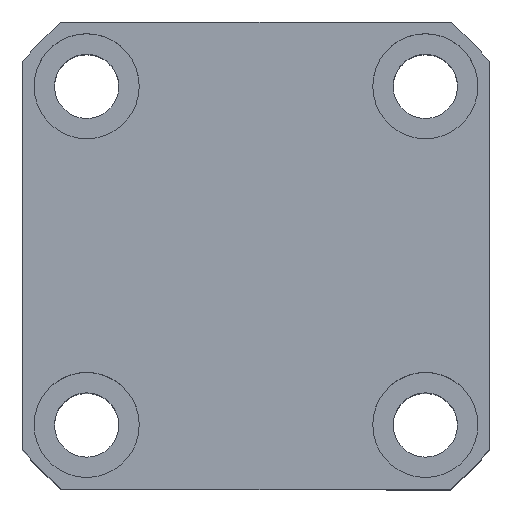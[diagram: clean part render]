
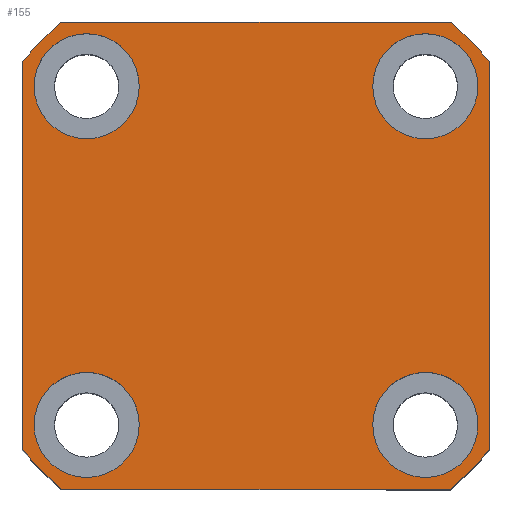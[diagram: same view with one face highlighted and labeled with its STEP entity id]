
A CAD part, top view. The second image highlights one B-rep face of the part: STEP entity #155.
In plain terms, the highlighted planar face has unit normal (0, 0, 1).
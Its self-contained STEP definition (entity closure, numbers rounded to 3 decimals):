
#124 = ORIENTED_EDGE ( 'NONE', *, *, #15685, .T. ) ;
#140 = EDGE_CURVE ( 'NONE', #9310, #4087, #6025, .T. ) ;
#155 = ADVANCED_FACE ( 'NONE', ( #2094, #168, #10389, #6459, #4936 ), #10174, .T. ) ;
#168 = FACE_BOUND ( 'NONE', #5834, .T. ) ;
#256 = VERTEX_POINT ( 'NONE', #1509 ) ;
#349 = ORIENTED_EDGE ( 'NONE', *, *, #2076, .T. ) ;
#391 = ORIENTED_EDGE ( 'NONE', *, *, #3482, .F. ) ;
#503 = DIRECTION ( 'NONE',  ( 0., 0., 1. ) ) ;
#584 = CARTESIAN_POINT ( 'NONE',  ( 40., 33.226, 42.5 ) ) ;
#848 = CARTESIAN_POINT ( 'NONE',  ( 20., 29., 42.5 ) ) ;
#892 = ORIENTED_EDGE ( 'NONE', *, *, #12629, .F. ) ;
#931 = VERTEX_POINT ( 'NONE', #10546 ) ;
#1097 = DIRECTION ( 'NONE',  ( 0., 0., 1. ) ) ;
#1403 = ORIENTED_EDGE ( 'NONE', *, *, #11525, .T. ) ;
#1509 = CARTESIAN_POINT ( 'NONE',  ( 33.226, 40., 42.5 ) ) ;
#1625 = DIRECTION ( 'NONE',  ( 0., 0., 1. ) ) ;
#1714 = CIRCLE ( 'NONE', #4272, 9. ) ;
#1740 = CARTESIAN_POINT ( 'NONE',  ( 20., -29., 42.5 ) ) ;
#1777 = VERTEX_POINT ( 'NONE', #2681 ) ;
#1819 = DIRECTION ( 'NONE',  ( 1., 0., 0. ) ) ;
#2018 = AXIS2_PLACEMENT_3D ( 'NONE', #10610, #3672, #2309 ) ;
#2076 = EDGE_CURVE ( 'NONE', #15550, #15470, #13695, .T. ) ;
#2094 = FACE_BOUND ( 'NONE', #6607, .T. ) ;
#2194 = CIRCLE ( 'NONE', #8693, 9. ) ;
#2226 = AXIS2_PLACEMENT_3D ( 'NONE', #8415, #14003, #5634 ) ;
#2257 = EDGE_CURVE ( 'NONE', #6229, #18089, #14803, .T. ) ;
#2309 = DIRECTION ( 'NONE',  ( 1., 0., 0. ) ) ;
#2662 = DIRECTION ( 'NONE',  ( -1., 0., 0. ) ) ;
#2676 = VERTEX_POINT ( 'NONE', #4842 ) ;
#2681 = CARTESIAN_POINT ( 'NONE',  ( 38., -29., 42.5 ) ) ;
#2685 = VERTEX_POINT ( 'NONE', #5265 ) ;
#2725 = CARTESIAN_POINT ( 'NONE',  ( 33.226, -40., 42.5 ) ) ;
#2756 = CARTESIAN_POINT ( 'NONE',  ( 0., 0., 42.5 ) ) ;
#2757 = CARTESIAN_POINT ( 'NONE',  ( -40., 33.226, 42.5 ) ) ;
#2796 = ORIENTED_EDGE ( 'NONE', *, *, #3977, .F. ) ;
#3159 = CARTESIAN_POINT ( 'NONE',  ( 0., 0., 42.5 ) ) ;
#3431 = ORIENTED_EDGE ( 'NONE', *, *, #16962, .F. ) ;
#3482 = EDGE_CURVE ( 'NONE', #18089, #6229, #4694, .T. ) ;
#3489 = DIRECTION ( 'NONE',  ( 0., 1., 0. ) ) ;
#3672 = DIRECTION ( 'NONE',  ( 0., 0., 1. ) ) ;
#3762 = VERTEX_POINT ( 'NONE', #5884 ) ;
#3852 = ORIENTED_EDGE ( 'NONE', *, *, #12594, .F. ) ;
#3977 = EDGE_CURVE ( 'NONE', #7020, #1777, #14554, .T. ) ;
#3983 = DIRECTION ( 'NONE',  ( 0., 0., 1. ) ) ;
#4038 = ORIENTED_EDGE ( 'NONE', *, *, #12263, .T. ) ;
#4087 = VERTEX_POINT ( 'NONE', #2757 ) ;
#4272 = AXIS2_PLACEMENT_3D ( 'NONE', #10871, #3983, #16696 ) ;
#4694 = CIRCLE ( 'NONE', #6560, 9. ) ;
#4747 = DIRECTION ( 'NONE',  ( 0., 0., 1. ) ) ;
#4760 = VERTEX_POINT ( 'NONE', #848 ) ;
#4823 = ORIENTED_EDGE ( 'NONE', *, *, #140, .T. ) ;
#4842 = CARTESIAN_POINT ( 'NONE',  ( 40., 33.226, 42.5 ) ) ;
#4936 = FACE_OUTER_BOUND ( 'NONE', #8471, .T. ) ;
#4975 = DIRECTION ( 'NONE',  ( 0., 0., 1. ) ) ;
#4990 = LINE ( 'NONE', #584, #14640 ) ;
#5048 = DIRECTION ( 'NONE',  ( 0., 0., 1. ) ) ;
#5265 = CARTESIAN_POINT ( 'NONE',  ( 38., 29., 42.5 ) ) ;
#5508 = AXIS2_PLACEMENT_3D ( 'NONE', #5558, #16946, #11313 ) ;
#5558 = CARTESIAN_POINT ( 'NONE',  ( -29., -29., 42.5 ) ) ;
#5634 = DIRECTION ( 'NONE',  ( 1., 0., 0. ) ) ;
#5745 = DIRECTION ( 'NONE',  ( 0., 0., 1. ) ) ;
#5834 = EDGE_LOOP ( 'NONE', ( #11211, #3431 ) ) ;
#5881 = LINE ( 'NONE', #14797, #6097 ) ;
#5884 = CARTESIAN_POINT ( 'NONE',  ( -40., -33.226, 42.5 ) ) ;
#6025 = CIRCLE ( 'NONE', #11401, 52. ) ;
#6097 = VECTOR ( 'NONE', #16202, 1000. ) ;
#6229 = VERTEX_POINT ( 'NONE', #12473 ) ;
#6379 = DIRECTION ( 'NONE',  ( 1., 0., 0. ) ) ;
#6459 = FACE_BOUND ( 'NONE', #8430, .T. ) ;
#6560 = AXIS2_PLACEMENT_3D ( 'NONE', #15643, #15588, #11539 ) ;
#6607 = EDGE_LOOP ( 'NONE', ( #10227, #2796 ) ) ;
#6876 = CARTESIAN_POINT ( 'NONE',  ( -33.226, 40., 42.5 ) ) ;
#7020 = VERTEX_POINT ( 'NONE', #1740 ) ;
#7069 = CIRCLE ( 'NONE', #16186, 52. ) ;
#7218 = VERTEX_POINT ( 'NONE', #7400 ) ;
#7400 = CARTESIAN_POINT ( 'NONE',  ( -38., -29., 42.5 ) ) ;
#7441 = LINE ( 'NONE', #6876, #12283 ) ;
#7600 = CARTESIAN_POINT ( 'NONE',  ( 0., 0., 42.5 ) ) ;
#7659 = ORIENTED_EDGE ( 'NONE', *, *, #15472, .T. ) ;
#7663 = CIRCLE ( 'NONE', #14820, 52. ) ;
#8379 = EDGE_CURVE ( 'NONE', #4087, #3762, #13874, .T. ) ;
#8415 = CARTESIAN_POINT ( 'NONE',  ( 0., 0., 42.5 ) ) ;
#8430 = EDGE_LOOP ( 'NONE', ( #3852, #892 ) ) ;
#8471 = EDGE_LOOP ( 'NONE', ( #4823, #9360, #14816, #1403, #349, #4038, #124, #7659 ) ) ;
#8693 = AXIS2_PLACEMENT_3D ( 'NONE', #12192, #4975, #6379 ) ;
#8856 = CIRCLE ( 'NONE', #11547, 9. ) ;
#9310 = VERTEX_POINT ( 'NONE', #11517 ) ;
#9360 = ORIENTED_EDGE ( 'NONE', *, *, #8379, .T. ) ;
#9747 = DIRECTION ( 'NONE',  ( 0., 0., 1. ) ) ;
#9905 = CIRCLE ( 'NONE', #5508, 9. ) ;
#9920 = EDGE_CURVE ( 'NONE', #931, #7218, #9905, .T. ) ;
#9927 = EDGE_CURVE ( 'NONE', #3762, #14461, #7069, .T. ) ;
#9985 = CARTESIAN_POINT ( 'NONE',  ( 0., 0., 42.5 ) ) ;
#10174 = PLANE ( 'NONE',  #10326 ) ;
#10209 = AXIS2_PLACEMENT_3D ( 'NONE', #12229, #1097, #10919 ) ;
#10227 = ORIENTED_EDGE ( 'NONE', *, *, #15288, .F. ) ;
#10305 = DIRECTION ( 'NONE',  ( 0., -1., 0. ) ) ;
#10326 = AXIS2_PLACEMENT_3D ( 'NONE', #3159, #4747, #1819 ) ;
#10389 = FACE_BOUND ( 'NONE', #18090, .T. ) ;
#10546 = CARTESIAN_POINT ( 'NONE',  ( -20., -29., 42.5 ) ) ;
#10610 = CARTESIAN_POINT ( 'NONE',  ( 29., -29., 42.5 ) ) ;
#10871 = CARTESIAN_POINT ( 'NONE',  ( 29., 29., 42.5 ) ) ;
#10919 = DIRECTION ( 'NONE',  ( 1., 0., 0. ) ) ;
#11151 = CARTESIAN_POINT ( 'NONE',  ( 40., -33.226, 42.5 ) ) ;
#11161 = CARTESIAN_POINT ( 'NONE',  ( -29., 29., 42.5 ) ) ;
#11211 = ORIENTED_EDGE ( 'NONE', *, *, #9920, .F. ) ;
#11313 = DIRECTION ( 'NONE',  ( 1., 0., 0. ) ) ;
#11401 = AXIS2_PLACEMENT_3D ( 'NONE', #7600, #503, #11728 ) ;
#11484 = VECTOR ( 'NONE', #10305, 1000. ) ;
#11517 = CARTESIAN_POINT ( 'NONE',  ( -33.226, 40., 42.5 ) ) ;
#11525 = EDGE_CURVE ( 'NONE', #14461, #15550, #5881, .T. ) ;
#11539 = DIRECTION ( 'NONE',  ( 1., 0., 0. ) ) ;
#11547 = AXIS2_PLACEMENT_3D ( 'NONE', #13426, #5048, #14859 ) ;
#11590 = DIRECTION ( 'NONE',  ( 1., 0., 0. ) ) ;
#11619 = CARTESIAN_POINT ( 'NONE',  ( -40., 33.226, 42.5 ) ) ;
#11728 = DIRECTION ( 'NONE',  ( 1., 0., 0. ) ) ;
#12192 = CARTESIAN_POINT ( 'NONE',  ( -29., -29., 42.5 ) ) ;
#12229 = CARTESIAN_POINT ( 'NONE',  ( 29., 29., 42.5 ) ) ;
#12263 = EDGE_CURVE ( 'NONE', #15470, #2676, #4990, .T. ) ;
#12283 = VECTOR ( 'NONE', #2662, 1000. ) ;
#12473 = CARTESIAN_POINT ( 'NONE',  ( -38., 29., 42.5 ) ) ;
#12594 = EDGE_CURVE ( 'NONE', #2685, #4760, #17478, .T. ) ;
#12629 = EDGE_CURVE ( 'NONE', #4760, #2685, #1714, .T. ) ;
#13426 = CARTESIAN_POINT ( 'NONE',  ( 29., -29., 42.5 ) ) ;
#13695 = CIRCLE ( 'NONE', #2226, 52. ) ;
#13874 = LINE ( 'NONE', #11619, #11484 ) ;
#14003 = DIRECTION ( 'NONE',  ( 0., 0., 1. ) ) ;
#14039 = DIRECTION ( 'NONE',  ( 1., 0., 0. ) ) ;
#14461 = VERTEX_POINT ( 'NONE', #16019 ) ;
#14554 = CIRCLE ( 'NONE', #2018, 9. ) ;
#14640 = VECTOR ( 'NONE', #3489, 1000. ) ;
#14750 = CARTESIAN_POINT ( 'NONE',  ( -20., 29., 42.5 ) ) ;
#14797 = CARTESIAN_POINT ( 'NONE',  ( -33.226, -40., 42.5 ) ) ;
#14803 = CIRCLE ( 'NONE', #16652, 9. ) ;
#14816 = ORIENTED_EDGE ( 'NONE', *, *, #9927, .T. ) ;
#14820 = AXIS2_PLACEMENT_3D ( 'NONE', #9985, #1625, #11590 ) ;
#14859 = DIRECTION ( 'NONE',  ( 1., 0., 0. ) ) ;
#15288 = EDGE_CURVE ( 'NONE', #1777, #7020, #8856, .T. ) ;
#15470 = VERTEX_POINT ( 'NONE', #11151 ) ;
#15472 = EDGE_CURVE ( 'NONE', #256, #9310, #7441, .T. ) ;
#15550 = VERTEX_POINT ( 'NONE', #2725 ) ;
#15588 = DIRECTION ( 'NONE',  ( 0., 0., 1. ) ) ;
#15643 = CARTESIAN_POINT ( 'NONE',  ( -29., 29., 42.5 ) ) ;
#15685 = EDGE_CURVE ( 'NONE', #2676, #256, #7663, .T. ) ;
#16019 = CARTESIAN_POINT ( 'NONE',  ( -33.226, -40., 42.5 ) ) ;
#16186 = AXIS2_PLACEMENT_3D ( 'NONE', #2756, #5745, #16706 ) ;
#16195 = ORIENTED_EDGE ( 'NONE', *, *, #2257, .F. ) ;
#16202 = DIRECTION ( 'NONE',  ( 1., 0., 0. ) ) ;
#16652 = AXIS2_PLACEMENT_3D ( 'NONE', #11161, #9747, #14039 ) ;
#16696 = DIRECTION ( 'NONE',  ( 1., 0., 0. ) ) ;
#16706 = DIRECTION ( 'NONE',  ( 1., 0., 0. ) ) ;
#16946 = DIRECTION ( 'NONE',  ( 0., 0., 1. ) ) ;
#16962 = EDGE_CURVE ( 'NONE', #7218, #931, #2194, .T. ) ;
#17478 = CIRCLE ( 'NONE', #10209, 9. ) ;
#18089 = VERTEX_POINT ( 'NONE', #14750 ) ;
#18090 = EDGE_LOOP ( 'NONE', ( #391, #16195 ) ) ;
